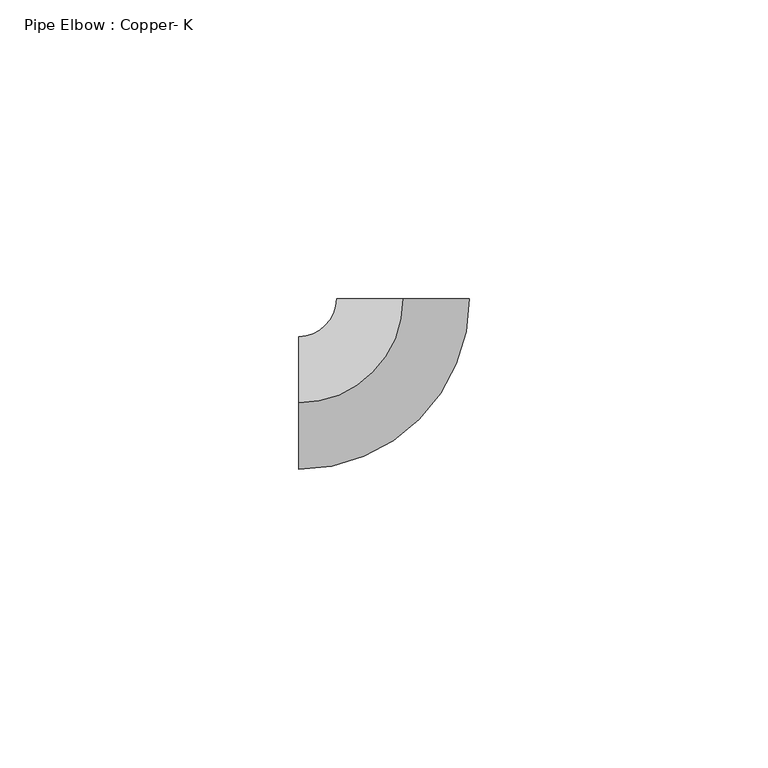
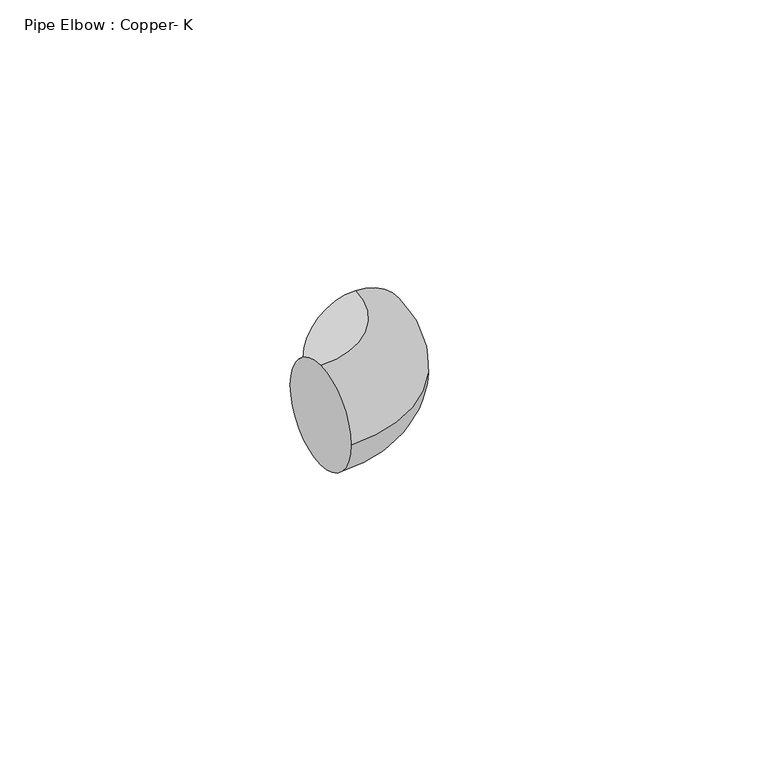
"""IFC4 building model written with IfcOpenShell, lengths in millimetres: pipe fitting geometry, Pipe Elbow : Copper- K."""

from ifc_helpers import new_model, si_unit, point, frame, origin, place, context, project, spatial, circle_curve, ellipse_curve, trimmed, source, transform, mapped, element, save
from ifc_brep_helpers import plane_surface, revolved_surface, advanced_brep


def pipe_elbow_copper_k_c2a1ca6f(model_context):
    return source(origin(), model_context, "Body", "AdvancedBrep", [
        advanced_brep(
        [(-17.4630455, 0.0, 11.1125), (-17.4630455, 11.1125, 0.0), (-17.4630455, 0.0, -11.1125), (-17.4630455, -11.1125, 0.0), (-0.0005455, 17.4630455, 11.1125), (11.1119545, 17.4633926, 0.0), (-0.0005455, 17.4630455, -11.1125), (-11.1130455, 17.4626984, 0.0)],
        [
            (0, 1, circle_curve(frame((-17.4630455, 0.0, 0.0), z_axis=(-1.0, 0.0, 0.0), x_axis=(0.0, 1.0, 0.0)), 11.1125)),
            (1, 2, circle_curve(frame((-17.4630455, 0.0, 0.0), z_axis=(-1.0, 0.0, 0.0), x_axis=(0.0, 1.0, 0.0)), 11.1125)),
            (2, 3, circle_curve(frame((-17.4630455, 0.0, 0.0), z_axis=(-1.0, 0.0, 0.0), x_axis=(0.0, 1.0, 0.0)), 11.1125)),
            (3, 0, circle_curve(frame((-17.4630455, 0.0, 0.0), z_axis=(-1.0, 0.0, 0.0), x_axis=(0.0, 1.0, 0.0)), 11.1125)),
            (4, 5, circle_curve(frame((-0.0005455, 17.4630455, 0.0), z_axis=(-3.12378178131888e-05, 0.9999999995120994, 0.0), x_axis=(-0.9999999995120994, -3.12378178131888e-05, 0.0)), 11.1125)),
            (5, 6, circle_curve(frame((-0.0005455, 17.4630455, 0.0), z_axis=(-3.12378178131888e-05, 0.9999999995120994, 0.0), x_axis=(-0.9999999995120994, -3.12378178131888e-05, 0.0)), 11.1125)),
            (6, 7, circle_curve(frame((-0.0005455, 17.4630455, 0.0), z_axis=(-3.12378178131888e-05, 0.9999999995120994, 0.0), x_axis=(-0.9999999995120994, -3.12378178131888e-05, 0.0)), 11.1125)),
            (7, 4, circle_curve(frame((-0.0005455, 17.4630455, 0.0), z_axis=(-3.12378178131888e-05, 0.9999999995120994, 0.0), x_axis=(-0.9999999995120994, -3.12378178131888e-05, 0.0)), 11.1125)),
            (7, 1, circle_curve(frame((-17.4630455, 17.4625, 0.0), z_axis=(0.0, 0.0, -1.0), x_axis=(0.0, -1.0, 0.0)), 6.35)),
            (0, 4, circle_curve(frame((-17.4630455, 17.4625, 11.1125), z_axis=(0.0, 0.0, 1.0), x_axis=(0.0, -1.0, 0.0)), 17.4625)),
            (6, 2, circle_curve(frame((-17.4630455, 17.4625, -11.1125), z_axis=(0.0, 0.0, -1.0), x_axis=(0.0, -1.0, 0.0)), 17.4625)),
            (5, 3, circle_curve(frame((-17.4630455, 17.4625, 0.0), z_axis=(0.0, 0.0, -1.0), x_axis=(0.0, -1.0, 0.0)), 28.575)),
        ],
        [
            plane_surface(frame((-17.4630455, 0.0, 0.0), z_axis=(-1.0, 0.0, 0.0), x_axis=(0.0, 0.0, 1.0))),
            plane_surface(frame((-0.0005455, 17.4630455, 0.0), z_axis=(-3.12378178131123e-05, 0.9999999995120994, 0.0), x_axis=(0.0, 0.0, 1.0))),
            revolved_surface(trimmed(ellipse_curve(frame((-17.4630455, 0.0, 0.0), z_axis=(-1.0, 0.0, 0.0), x_axis=(0.0, 1.0, 0.0)), 11.1125, 11.1125), [point((-17.4630455, 0.0, 11.1125))], [point((-17.4630455, 11.1125, 0.0))], True, "CARTESIAN"), (-17.4630455, 17.4625, 0.0), (0.0, 0.0, 1.0)),
            revolved_surface(trimmed(ellipse_curve(frame((-17.4630455, 0.0, 0.0), z_axis=(-1.0, 0.0, 0.0), x_axis=(0.0, 1.0, 0.0)), 11.1125, 11.1125), [point((-17.4630455, 11.1125, 0.0))], [point((-17.4630455, 0.0, -11.1125))], True, "CARTESIAN"), (-17.4630455, 17.4625, 0.0), (0.0, 0.0, 1.0)),
            revolved_surface(trimmed(ellipse_curve(frame((-17.4630455, 0.0, 0.0), z_axis=(-1.0, 0.0, 0.0), x_axis=(0.0, 1.0, 0.0)), 11.1125, 11.1125), [point((-17.4630455, 0.0, -11.1125))], [point((-17.4630455, -11.1125, 0.0))], True, "CARTESIAN"), (-17.4630455, 17.4625, 0.0), (0.0, 0.0, 1.0)),
            revolved_surface(trimmed(ellipse_curve(frame((-17.4630455, 0.0, 0.0), z_axis=(-1.0, 0.0, 0.0), x_axis=(0.0, 1.0, 0.0)), 11.1125, 11.1125), [point((-17.4630455, -11.1125, 0.0))], [point((-17.4630455, 0.0, 11.1125))], True, "CARTESIAN"), (-17.4630455, 17.4625, 0.0), (0.0, 0.0, 1.0)),
        ],
        [
            (0, [[1, 2, 3, 4]]),
            (1, [[5, 6, 7, 8]]),
            (2, [[9, -1, 10, -8]]),
            (3, [[11, -2, -9, -7]]),
            (4, [[12, -3, -11, -6]]),
            (5, [[-10, -4, -12, -5]]),
        ],
    ),
        advanced_brep(
        [(-17.4630455, 0.0, 11.1125), (-17.4630455, 11.1125, 0.0), (-17.4630455, 0.0, -11.1125), (-17.4630455, -11.1125, 0.0), (-0.0005455, 17.4630455, 11.1125), (11.1119545, 17.4633926, 0.0), (-0.0005455, 17.4630455, -11.1125), (-11.1130455, 17.4626984, 0.0)],
        [
            (0, 1, circle_curve(frame((-17.4630455, 0.0, 0.0), z_axis=(-1.0, 0.0, 0.0), x_axis=(0.0, 1.0, 0.0)), 11.1125)),
            (1, 2, circle_curve(frame((-17.4630455, 0.0, 0.0), z_axis=(-1.0, 0.0, 0.0), x_axis=(0.0, 1.0, 0.0)), 11.1125)),
            (2, 3, circle_curve(frame((-17.4630455, 0.0, 0.0), z_axis=(-1.0, 0.0, 0.0), x_axis=(0.0, 1.0, 0.0)), 11.1125)),
            (3, 0, circle_curve(frame((-17.4630455, 0.0, 0.0), z_axis=(-1.0, 0.0, 0.0), x_axis=(0.0, 1.0, 0.0)), 11.1125)),
            (4, 5, circle_curve(frame((-0.0005455, 17.4630455, 0.0), z_axis=(-3.12378178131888e-05, 0.9999999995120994, 0.0), x_axis=(-0.9999999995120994, -3.12378178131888e-05, 0.0)), 11.1125)),
            (5, 6, circle_curve(frame((-0.0005455, 17.4630455, 0.0), z_axis=(-3.12378178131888e-05, 0.9999999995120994, 0.0), x_axis=(-0.9999999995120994, -3.12378178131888e-05, 0.0)), 11.1125)),
            (6, 7, circle_curve(frame((-0.0005455, 17.4630455, 0.0), z_axis=(-3.12378178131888e-05, 0.9999999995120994, 0.0), x_axis=(-0.9999999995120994, -3.12378178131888e-05, 0.0)), 11.1125)),
            (7, 4, circle_curve(frame((-0.0005455, 17.4630455, 0.0), z_axis=(-3.12378178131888e-05, 0.9999999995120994, 0.0), x_axis=(-0.9999999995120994, -3.12378178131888e-05, 0.0)), 11.1125)),
            (7, 1, circle_curve(frame((-17.4630455, 17.4625, 0.0), z_axis=(0.0, 0.0, -1.0), x_axis=(0.0, -1.0, 0.0)), 6.35)),
            (0, 4, circle_curve(frame((-17.4630455, 17.4625, 11.1125), z_axis=(0.0, 0.0, 1.0), x_axis=(0.0, -1.0, 0.0)), 17.4625)),
            (6, 2, circle_curve(frame((-17.4630455, 17.4625, -11.1125), z_axis=(0.0, 0.0, -1.0), x_axis=(0.0, -1.0, 0.0)), 17.4625)),
            (5, 3, circle_curve(frame((-17.4630455, 17.4625, 0.0), z_axis=(0.0, 0.0, -1.0), x_axis=(0.0, -1.0, 0.0)), 28.575)),
        ],
        [
            plane_surface(frame((-17.4630455, 0.0, 0.0), z_axis=(-1.0, 0.0, 0.0), x_axis=(0.0, 0.0, 1.0))),
            plane_surface(frame((-0.0005455, 17.4630455, 0.0), z_axis=(-3.12378178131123e-05, 0.9999999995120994, 0.0), x_axis=(0.0, 0.0, 1.0))),
            revolved_surface(trimmed(ellipse_curve(frame((-17.4630455, 0.0, 0.0), z_axis=(-1.0, 0.0, 0.0), x_axis=(0.0, 1.0, 0.0)), 11.1125, 11.1125), [point((-17.4630455, 0.0, 11.1125))], [point((-17.4630455, 11.1125, 0.0))], True, "CARTESIAN"), (-17.4630455, 17.4625, 0.0), (0.0, 0.0, 1.0)),
            revolved_surface(trimmed(ellipse_curve(frame((-17.4630455, 0.0, 0.0), z_axis=(-1.0, 0.0, 0.0), x_axis=(0.0, 1.0, 0.0)), 11.1125, 11.1125), [point((-17.4630455, 11.1125, 0.0))], [point((-17.4630455, 0.0, -11.1125))], True, "CARTESIAN"), (-17.4630455, 17.4625, 0.0), (0.0, 0.0, 1.0)),
            revolved_surface(trimmed(ellipse_curve(frame((-17.4630455, 0.0, 0.0), z_axis=(-1.0, 0.0, 0.0), x_axis=(0.0, 1.0, 0.0)), 11.1125, 11.1125), [point((-17.4630455, 0.0, -11.1125))], [point((-17.4630455, -11.1125, 0.0))], True, "CARTESIAN"), (-17.4630455, 17.4625, 0.0), (0.0, 0.0, 1.0)),
            revolved_surface(trimmed(ellipse_curve(frame((-17.4630455, 0.0, 0.0), z_axis=(-1.0, 0.0, 0.0), x_axis=(0.0, 1.0, 0.0)), 11.1125, 11.1125), [point((-17.4630455, -11.1125, 0.0))], [point((-17.4630455, 0.0, 11.1125))], True, "CARTESIAN"), (-17.4630455, 17.4625, 0.0), (0.0, 0.0, 1.0)),
        ],
        [
            (0, [[1, 2, 3, 4]]),
            (1, [[5, 6, 7, 8]]),
            (2, [[9, -1, 10, -8]]),
            (3, [[11, -2, -9, -7]]),
            (4, [[12, -3, -11, -6]]),
            (5, [[-10, -4, -12, -5]]),
        ],
    ),
    ])


if __name__ == "__main__":
    model = new_model("IFC4")
    model_context = context("Model", 3, world=origin())
    ifc_project = project(units=[si_unit("LENGTHUNIT", "METRE", prefix="MILLI")], contexts=[model_context])
    site = spatial("IfcSite", under=ifc_project)
    building = spatial("IfcBuilding", under=site)
    placement = place(None, origin())
    pipe_elbow_copper_k_shape = pipe_elbow_copper_k_c2a1ca6f(model_context)
    element("IfcPipeFitting", 1, ObjectType="Pipe Elbow : Copper- K", at=placement, inside=building, context=model_context, shape_type="MappedRepresentation", body=[
        mapped(pipe_elbow_copper_k_shape, transform((0.0, 0.0, 0.0), x_axis=(1.0, 0.0, 0.0), y_axis=(0.0, 1.0, 0.0), z_axis=(0.0, 0.0, 1.0))),
    ])
    save(model, "model.ifc")
